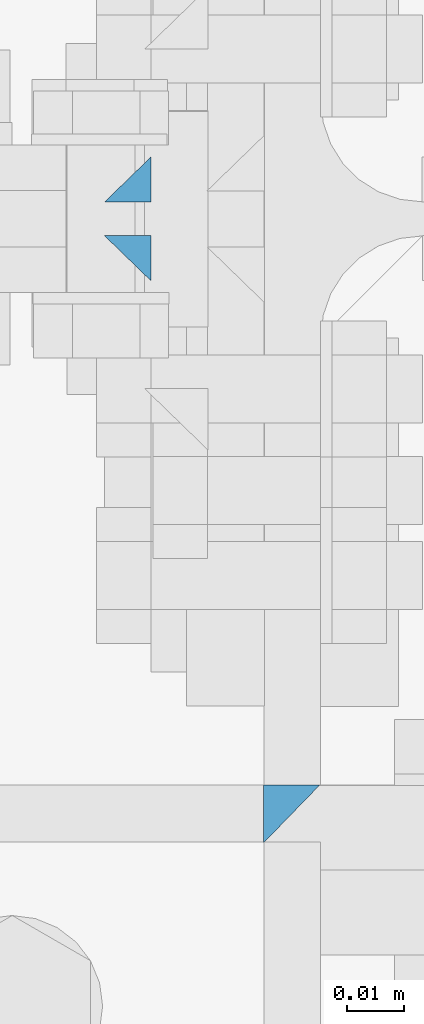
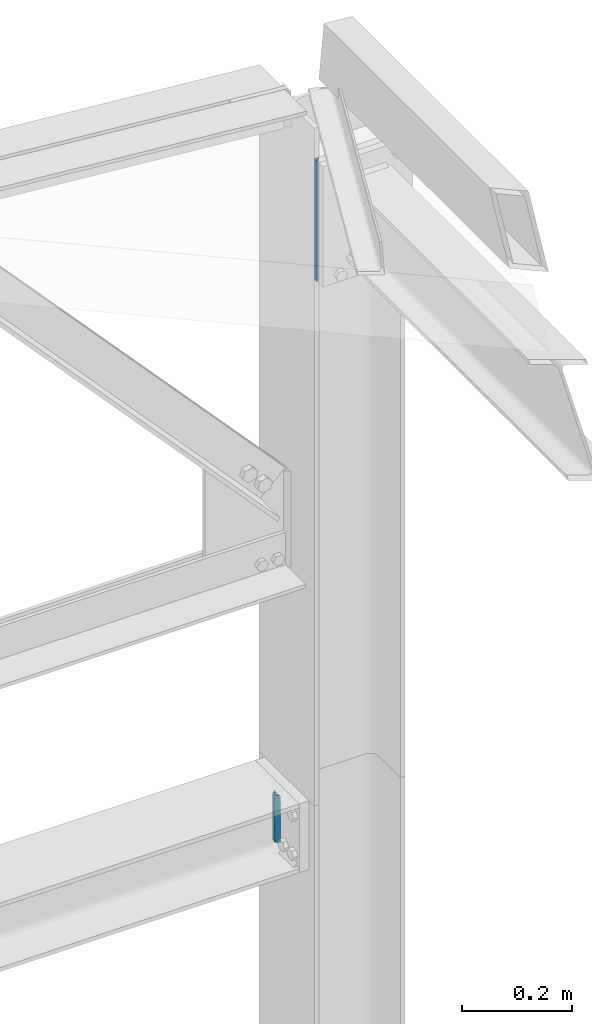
# One storey, part 52 of 251: 5 fasteners.
"""IFC4 building model written with IfcOpenShell, lengths in metres."""

from ifc_helpers import new_model, si_unit, frame, origin_with_axes, place, context, project, spatial, polyline, outline, extrude, type_object, element, save


model = new_model("IFC4")

# Units and contexts
model_context = context("Model", 3, precision=1e-05, world=origin_with_axes())
ifc_project = project(units=[si_unit("LENGTHUNIT", "METRE"), si_unit("AREAUNIT", "SQUARE_METRE"), si_unit("VOLUMEUNIT", "CUBIC_METRE"), si_unit("MASSUNIT", "GRAM", prefix="KILO"), si_unit("TIMEUNIT", "SECOND"), si_unit("PLANEANGLEUNIT", "RADIAN"), si_unit("SOLIDANGLEUNIT", "STERADIAN"), si_unit("THERMODYNAMICTEMPERATUREUNIT", "DEGREE_CELSIUS")], contexts=[model_context])

# Site, building, storey
placement_1 = place(None, origin_with_axes())
site = spatial("IfcSite", under=ifc_project, at=placement_1, Name="Italia", CompositionType="ELEMENT")
building = spatial("IfcBuilding", under=site, at=placement_1, Name="Deposito", CompositionType="ELEMENT")
storey = spatial("IfcBuildingStorey", under=building, at=placement_1, Name="Storey 0", CompositionType="ELEMENT", Elevation=0.0)

# Fasteners
fastener_type_1 = type_object("IfcFastenerType", Name="Collegamenti -051_7075 -053_7076", PredefinedType="WELD")
placement_2 = place(placement_1, origin_with_axes())
fastener_1_placement = place(placement_2, origin_with_axes())
element("IfcFastener", 1, at=fastener_1_placement, inside=storey, type_object=fastener_type_1, Name="Collegamenti -051_7075 -053_7076", context=model_context, shape_type="SweptSolid", body=[
    extrude(outline(polyline([(0.0, 0.0), (0.00792694, 0.00817299), (0.00792694, 0.0), (0.0, 0.0)])), frame((19.885, 19.9891, 4.37195), z_axis=(0.0, 0.0, 1.0), x_axis=(0.0, 1.0, 0.0)), (0.0, 0.0, 1.0), 0.1041),
])
fastener_type_2 = type_object("IfcFastenerType", Name="Collegamenti -051_7075 -053_7076", PredefinedType="WELD")
fastener_2_placement = place(placement_2, origin_with_axes())
element("IfcFastener", 2, at=fastener_2_placement, inside=storey, type_object=fastener_type_2, Name="Collegamenti -051_7075 -053_7076", context=model_context, shape_type="SweptSolid", body=[
    extrude(outline(polyline([(0.0, 0.0), (-0.00792694, -0.00817299), (-0.00792694, 0.0), (0.0, 0.0)])), frame((19.885, 20.0109, 4.47605), z_axis=(0.0, 0.0, -1.0), x_axis=(0.0, 1.0, 0.0)), (0.0, 0.0, 1.0), 0.1041),
])
fastener_type_3 = type_object("IfcFastenerType", Name="Collegamenti -051_7075 -053_7076", PredefinedType="WELD")
fastener_3_placement = place(placement_2, origin_with_axes())
element("IfcFastener", 3, at=fastener_3_placement, inside=storey, type_object=fastener_type_3, Name="Collegamenti -051_7075 -053_7076", context=model_context, shape_type="SweptSolid", body=[
    extrude(outline(polyline([(0.0, 0.0), (0.00792694, 0.00817299), (0.00792694, 0.0), (0.0, 0.0)])), frame((19.885, 19.9891, 4.37195), z_axis=(0.0, 0.0, 1.0), x_axis=(0.0, 1.0, 0.0)), (0.0, 0.0, 1.0), 0.1041),
])
fastener_type_4 = type_object("IfcFastenerType", Name="Collegamenti -051_7075 -053_7076", PredefinedType="WELD")
fastener_4_placement = place(placement_2, origin_with_axes())
element("IfcFastener", 4, at=fastener_4_placement, inside=storey, type_object=fastener_type_4, Name="Collegamenti -051_7075 -053_7076", context=model_context, shape_type="SweptSolid", body=[
    extrude(outline(polyline([(0.0, 0.0), (-0.00792694, -0.00817299), (-0.00792694, 0.0), (0.0, 0.0)])), frame((19.885, 20.0109, 4.47605), z_axis=(0.0, 0.0, -1.0), x_axis=(0.0, 1.0, 0.0)), (0.0, 0.0, 1.0), 0.1041),
])
fastener_type_5 = type_object("IfcFastenerType", Name="Collegamenti -064_-065 -065_-064 -065_-066 -066_-065 -066_-067 -067_-066 -067_-068 -068_-067", PredefinedType="WELD")
fastener_5_placement = place(placement_2, origin_with_axes())
element("IfcFastener", 5, at=fastener_5_placement, inside=storey, type_object=fastener_type_5, Name="Collegamenti -064_-065 -065_-064 -065_-066 -066_-065 -066_-067 -067_-066 -067_-068 -068_-067", context=model_context, shape_type="SweptSolid", body=[
    extrude(outline(polyline([(0.0, 0.0), (-0.0101719, 0.00986862), (0.0, 0.00986862), (0.0, 0.0)])), frame((19.9148, 19.9, 5.66695), z_axis=(0.0, 0.0, 1.0), x_axis=(0.0, 1.0, 0.0)), (0.0, 0.0, 1.0), 0.2661),
])

save(model, "model.ifc")
